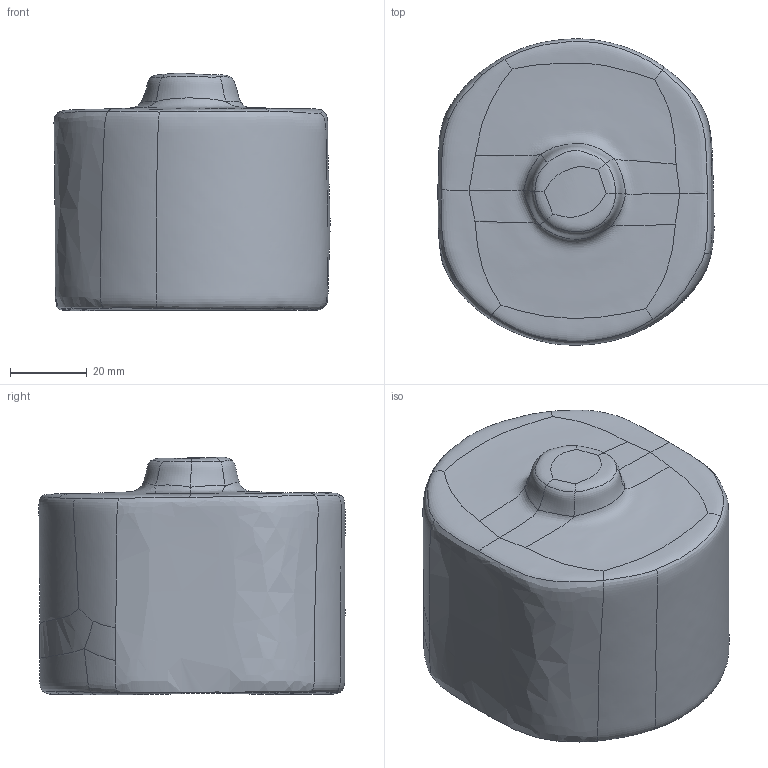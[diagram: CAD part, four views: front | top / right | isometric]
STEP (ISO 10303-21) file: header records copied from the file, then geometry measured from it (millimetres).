
FILE_DESCRIPTION((''),'2;1');
FILE_NAME('__GRANITE__8','2015-03-16T',(''),(''),'PRO/ENGINEER BY PARAMETRIC TECHNOLOGY CORPORATION, 2012230','PRO/ENGINEER BY PARAMETRIC TECHNOLOGY CORPORATION, 2012230','');
FILE_SCHEMA(('CONFIG_CONTROL_DESIGN'));
Products named in the file (1): __GRANITE__8
Bounding box: 72.18 x 80.06 x 62.1 mm (x, y, z)
Volume: 220028.8 mm3; surface area: 23768.7 mm2
Topology: 1 solids, 1 shells, 43 faces, 217 edges, 176 vertices
Faces by surface type: bspline 43
Entity records: 202130 total; most frequent: CARTESIAN_POINT 200863, ORIENTED_EDGE 434, B_SPLINE_CURVE_WITH_KNOTS 217, EDGE_CURVE 217, VERTEX_POINT 176, B_SPLINE_SURFACE_WITH_KNOTS 43, EDGE_LOOP 43, FACE_OUTER_BOUND 43
